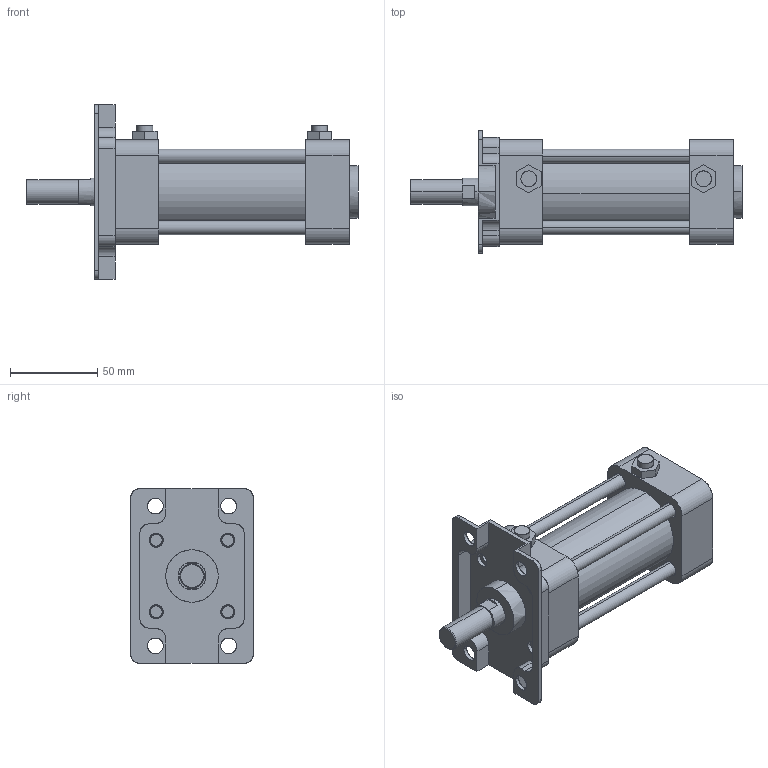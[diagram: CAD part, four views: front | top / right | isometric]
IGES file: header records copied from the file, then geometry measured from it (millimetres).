
Start section: SolidWorks IGES file using analytic representation for surfaces
Global section: file name: C:\Users\Toshiba\Desktop\KG2-40-50-A.IGS; native system: SolidWorks 2014; preprocessor: SolidWorks 2014; author: Toshiba; date: 160401.160710; units: millimetre
Bounding box: 190 x 70 x 100 mm (x, y, z)
Surface area: 102014 mm2 (no closed solid volume)
Topology: 0 solids, 0 shells, 427 faces, 6421 edges, 6387 vertices
Faces by surface type: revolution 224, bspline 203
